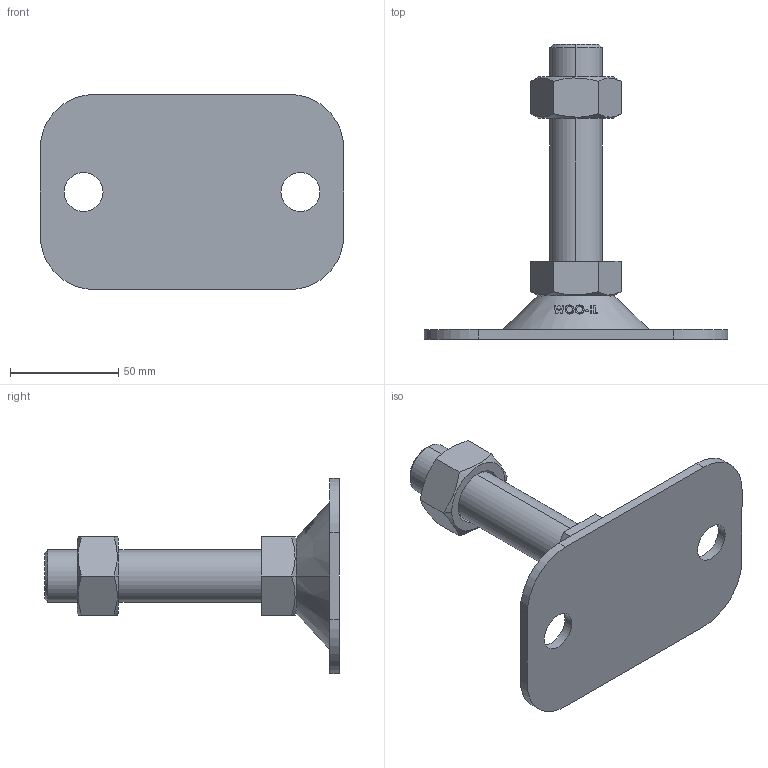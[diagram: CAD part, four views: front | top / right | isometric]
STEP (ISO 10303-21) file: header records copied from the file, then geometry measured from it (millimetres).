
FILE_DESCRIPTION (( 'STEP AP214' ), '1' );
FILE_NAME ('FABL90140-M24-100.step', '2021-03-28T23:54:01', ( '' ), ( '' ), 'SwSTEP 2.0', 'SolidWorks 2019', '' );
FILE_SCHEMA (( 'AUTOMOTIVE_DESIGN' ));
Length unit declared in the file: millimetre
Products named in the file (2): FABL90140-M24-100
Bounding box: 140 x 136 x 90 mm (x, y, z)
Volume: 160792.1 mm3; surface area: 41193 mm2
Topology: 2 solids, 2 shells, 130 faces, 333 edges, 218 vertices
Faces by surface type: plane 50, cylinder 40, cone 22, bspline 18
Entity records: 5607 total; most frequent: CARTESIAN_POINT 2649, ORIENTED_EDGE 666, DIRECTION 485, EDGE_CURVE 333, VERTEX_POINT 218, AXIS2_PLACEMENT_3D 178, EDGE_LOOP 147, B_SPLINE_CURVE_WITH_KNOTS 140
